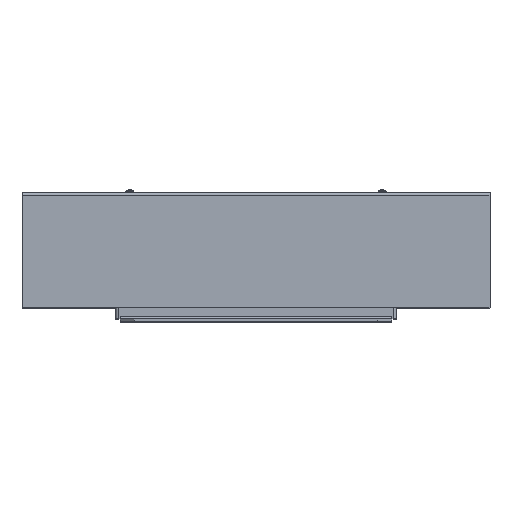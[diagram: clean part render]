
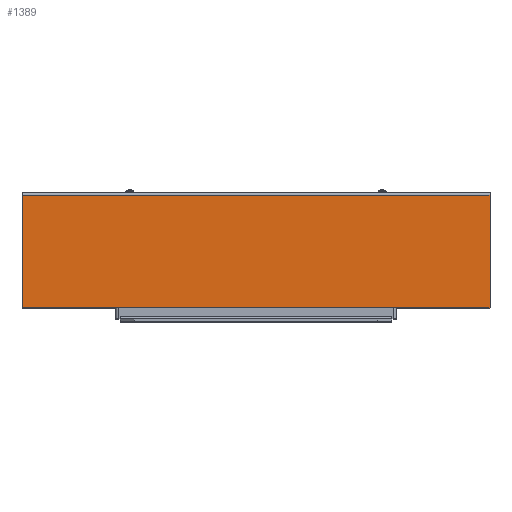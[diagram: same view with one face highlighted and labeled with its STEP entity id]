
A CAD part, top view. The second image highlights one B-rep face of the part: STEP entity #1389.
In plain terms, the highlighted planar face has unit normal (0, 0, 1) as drawn and (-1, 0, 0) by its records, which use the part's own axes.
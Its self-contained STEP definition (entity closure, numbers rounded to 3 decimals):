
#1389 = ADVANCED_FACE ( 'NONE', ( #5853 ), #5852, .F. ) ;
#1390 = EDGE_LOOP ( 'NONE', ( #1391, #1394, #1397, #1399 ) ) ;
#1391 = ORIENTED_EDGE ( 'NONE', *, *, #1392, .T. ) ;
#1392 = EDGE_CURVE ( 'NONE', #1410, #1393, #5847, .T. ) ;
#1393 = VERTEX_POINT ( 'NONE', #5843 ) ;
#1394 = ORIENTED_EDGE ( 'NONE', *, *, #1395, .T. ) ;
#1395 = EDGE_CURVE ( 'NONE', #1393, #1396, #5842, .T. ) ;
#1396 = VERTEX_POINT ( 'NONE', #5838 ) ;
#1397 = ORIENTED_EDGE ( 'NONE', *, *, #1398, .F. ) ;
#1398 = EDGE_CURVE ( 'NONE', #1413, #1396, #5837, .T. ) ;
#1399 = ORIENTED_EDGE ( 'NONE', *, *, #1412, .T. ) ;
#1410 = VERTEX_POINT ( 'NONE', #5877 ) ;
#1412 = EDGE_CURVE ( 'NONE', #1413, #1410, #5876, .T. ) ;
#1413 = VERTEX_POINT ( 'NONE', #5872 ) ;
#5834 = DIRECTION ( 'NONE',  ( 0., 1., 0. ) ) ;
#5835 = VECTOR ( 'NONE', #5834, 1000. ) ;
#5836 = CARTESIAN_POINT ( 'NONE',  ( -120.5, 0., -500. ) ) ;
#5837 = LINE ( 'NONE', #5836, #5835 ) ;
#5838 = CARTESIAN_POINT ( 'NONE',  ( -120.5, 0., -500. ) ) ;
#5839 = DIRECTION ( 'NONE',  ( 0., 0., -1. ) ) ;
#5840 = VECTOR ( 'NONE', #5839, 1000. ) ;
#5841 = CARTESIAN_POINT ( 'NONE',  ( -120.5, 0., -500. ) ) ;
#5842 = LINE ( 'NONE', #5841, #5840 ) ;
#5843 = CARTESIAN_POINT ( 'NONE',  ( -120.5, 0., 0. ) ) ;
#5844 = DIRECTION ( 'NONE',  ( 0., 1., 0. ) ) ;
#5845 = VECTOR ( 'NONE', #5844, 1000. ) ;
#5846 = CARTESIAN_POINT ( 'NONE',  ( -120.5, 0., 0. ) ) ;
#5847 = LINE ( 'NONE', #5846, #5845 ) ;
#5848 = DIRECTION ( 'NONE',  ( 0., 1., 0. ) ) ;
#5849 = DIRECTION ( 'NONE',  ( 1., 0., 0. ) ) ;
#5850 = CARTESIAN_POINT ( 'NONE',  ( -120.5, 0., -500. ) ) ;
#5851 = AXIS2_PLACEMENT_3D ( 'NONE', #5850, #5849, #5848 ) ;
#5852 = PLANE ( 'NONE',  #5851 ) ;
#5853 = FACE_OUTER_BOUND ( 'NONE', #1390, .T. ) ;
#5872 = CARTESIAN_POINT ( 'NONE',  ( -120.5, -120., -500. ) ) ;
#5873 = DIRECTION ( 'NONE',  ( 0., 0., 1. ) ) ;
#5874 = VECTOR ( 'NONE', #5873, 1000. ) ;
#5875 = CARTESIAN_POINT ( 'NONE',  ( -120.5, -120., -500. ) ) ;
#5876 = LINE ( 'NONE', #5875, #5874 ) ;
#5877 = CARTESIAN_POINT ( 'NONE',  ( -120.5, -120., 0. ) ) ;
